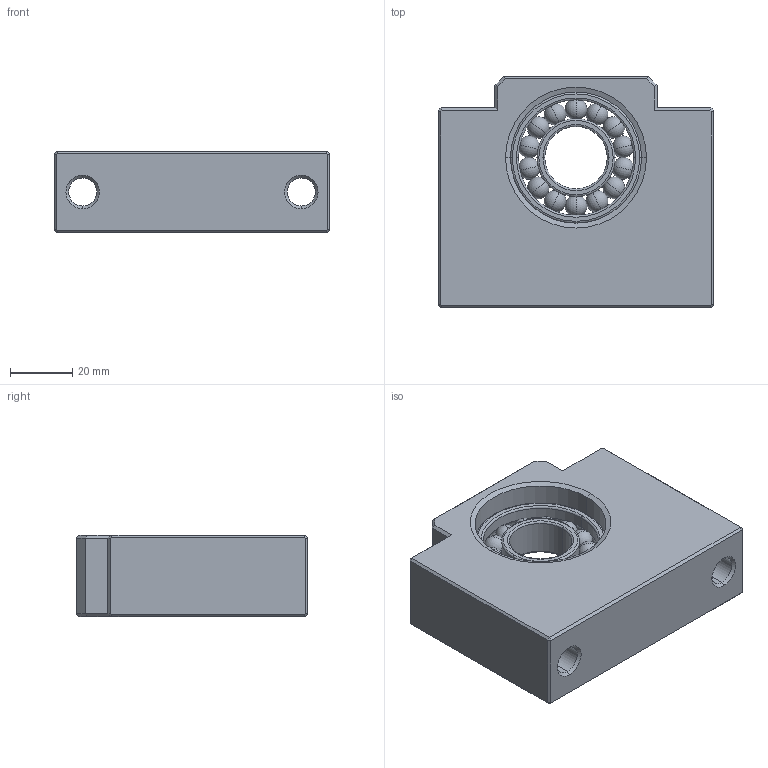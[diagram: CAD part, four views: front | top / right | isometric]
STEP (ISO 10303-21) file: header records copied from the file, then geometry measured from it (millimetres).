
FILE_DESCRIPTION (( 'STEP AP203' ), '1' );
FILE_NAME ('BF20-H²Õ¦X¥ó.STEP', '2017-12-27T08:16:24', ( '' ), ( '' ), 'SwSTEP 2.0', 'SolidWorks 2017', '' );
FILE_SCHEMA (( 'CONFIG_CONTROL_DESIGN' ));
Length unit declared in the file: millimetre
Products named in the file (1): BF20-H組合件
Bounding box: 88 x 74 x 26 mm (x, y, z)
Surface area: 30315.2 mm2 (no closed solid volume)
Topology: 0 solids, 17 shells, 130 faces, 340 edges, 218 vertices
Faces by surface type: plane 50, sphere 28, cylinder 22, torus 18, cone 12
Entity records: 3521 total; most frequent: DIRECTION 654, CARTESIAN_POINT 577, ORIENTED_EDGE 530, EDGE_CURVE 270, AXIS2_PLACEMENT_3D 253, VERTEX_POINT 176, VECTOR 148, LINE 148
